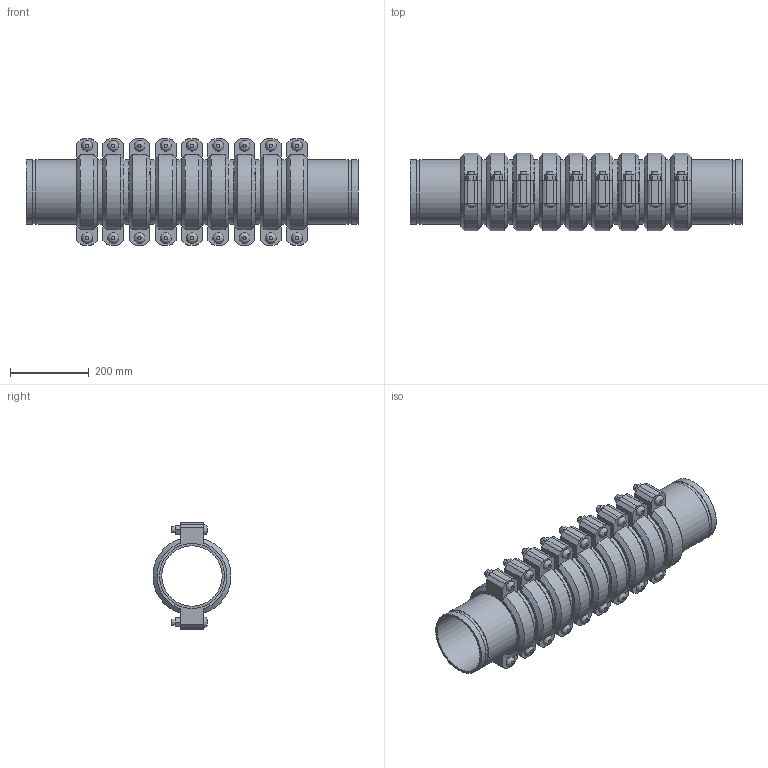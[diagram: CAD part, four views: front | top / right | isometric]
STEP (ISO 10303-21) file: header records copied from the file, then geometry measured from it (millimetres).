
FILE_DESCRIPTION(/* description */ ('VIC EXPANSION JOINT 9 COUPLINGS EXPANDED STYLE 155 (OGS)','CAx-IF Rec.Pracs.---Representation and Presentation of Product Manufacturing Information (PMI)---4.0---2014-10-13'),/* implementation_level */ '2;1');
FILE_NAME(/* name */ 'C:\Users\kkamble\AppData\Roaming\Autodesk\ApplicationPlugins\Victaulic.Temp\A90\Victaulic_IPS_Expansion Joint_Expanded_9 Couplings_Style 155 (OGS)_06.0 (165.1) (150).stp',/* time_stamp */ '2021-06-27T00:11:48+02:00',/* author */ ('kkamble'),/* organization */ ('Victaulic'),/* preprocessor_version */ 'ST-DEVELOPER v17.2',/* originating_system */ 'Autodesk Inventor 2019',/* authorisation */ '');
FILE_SCHEMA (('AP242_MANAGED_MODEL_BASED_3D_ENGINEERING_MIM_LF { 1 0 10303 442 1 1 4 }'));
Length unit declared in the file: inch
Products named in the file (4): 155-06.0 (165.1); Nipple-06.0 (165.1); Nipple-06.0 (165.1)_1; 075-06.0 (165.1)
Assembly tree (19 placements, depth 2):
  155-06.0 (165.1)
    Nipple-06.0 (165.1)  x2
    Nipple-06.0 (165.1)_1  x8
    075-06.0 (165.1)  x9
Bounding box: 844.8 x 198.42 x 270.76 mm (x, y, z)
Volume: 8418402.8 mm3; surface area: 1892831.1 mm2
Topology: 19 solids, 37 shells, 633 faces, 1497 edges, 1050 vertices
Faces by surface type: plane 384, cylinder 195, cone 36, bspline 18
Full cylindrical faces by diameter (mm): 15.875 x36, 17.424 x18, 153.975 x10, 158.75 x9, 160.782 x20, 165.1 x48
Entity records: 2865 total; most frequent: CARTESIAN_POINT 503, DIRECTION 481, ORIENTED_EDGE 386, AXIS2_PLACEMENT_3D 194, EDGE_CURVE 193, VERTEX_POINT 138, EDGE_LOOP 107, LINE 93
